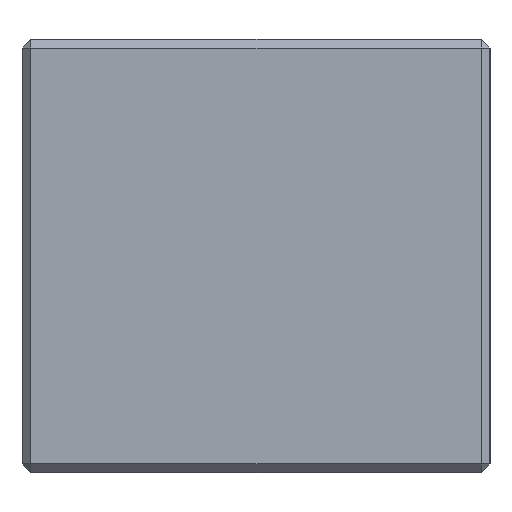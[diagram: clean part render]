
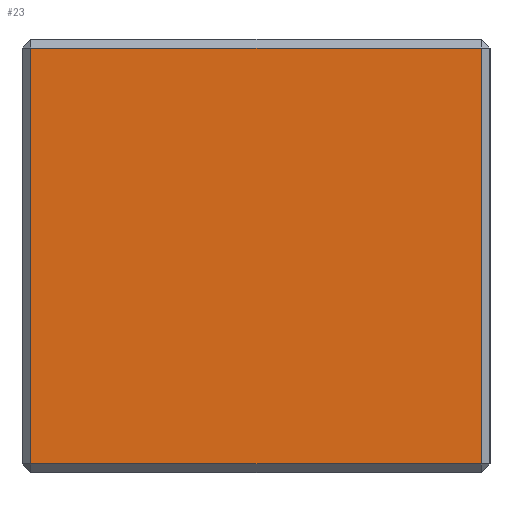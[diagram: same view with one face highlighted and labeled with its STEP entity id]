
A CAD part, left-side view. The second image highlights one B-rep face of the part: STEP entity #23.
In plain terms, the highlighted planar face has unit normal (-1, 0, 0).
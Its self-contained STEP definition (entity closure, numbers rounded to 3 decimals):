
#18 = EDGE_LOOP ( 'NONE', ( #471, #426, #443, #441 ) ) ;
#23 = ADVANCED_FACE ( 'NONE', ( #830 ), #829, .F. ) ;
#409 = VERTEX_POINT ( 'NONE', #1484 ) ;
#412 = VERTEX_POINT ( 'NONE', #1479 ) ;
#426 = ORIENTED_EDGE ( 'NONE', *, *, #444, .T. ) ;
#427 = EDGE_CURVE ( 'NONE', #412, #409, #1529, .T. ) ;
#439 = EDGE_CURVE ( 'NONE', #449, #445, #1562, .T. ) ;
#440 = EDGE_CURVE ( 'NONE', #445, #412, #1558, .T. ) ;
#441 = ORIENTED_EDGE ( 'NONE', *, *, #440, .T. ) ;
#443 = ORIENTED_EDGE ( 'NONE', *, *, #439, .T. ) ;
#444 = EDGE_CURVE ( 'NONE', #409, #449, #1554, .T. ) ;
#445 = VERTEX_POINT ( 'NONE', #1550 ) ;
#449 = VERTEX_POINT ( 'NONE', #1549 ) ;
#471 = ORIENTED_EDGE ( 'NONE', *, *, #427, .T. ) ;
#825 = DIRECTION ( 'NONE',  ( 0., 0., -1. ) ) ;
#826 = DIRECTION ( 'NONE',  ( 1., 0., 0. ) ) ;
#827 = CARTESIAN_POINT ( 'NONE',  ( -43., 31., 25. ) ) ;
#828 = AXIS2_PLACEMENT_3D ( 'NONE', #827, #826, #825 ) ;
#829 = PLANE ( 'NONE',  #828 ) ;
#830 = FACE_OUTER_BOUND ( 'NONE', #18, .T. ) ;
#1479 = CARTESIAN_POINT ( 'NONE',  ( -43., 30., -24. ) ) ;
#1484 = CARTESIAN_POINT ( 'NONE',  ( -43., -22., -24. ) ) ;
#1526 = DIRECTION ( 'NONE',  ( 0., -1., 0. ) ) ;
#1527 = VECTOR ( 'NONE', #1526, 1000. ) ;
#1528 = CARTESIAN_POINT ( 'NONE',  ( -43., 31., -24. ) ) ;
#1529 = LINE ( 'NONE', #1528, #1527 ) ;
#1549 = CARTESIAN_POINT ( 'NONE',  ( -43., -22., 24. ) ) ;
#1550 = CARTESIAN_POINT ( 'NONE',  ( -43., 30., 24. ) ) ;
#1551 = DIRECTION ( 'NONE',  ( 0., 0., 1. ) ) ;
#1552 = VECTOR ( 'NONE', #1551, 1000. ) ;
#1553 = CARTESIAN_POINT ( 'NONE',  ( -43., -22., 25. ) ) ;
#1554 = LINE ( 'NONE', #1553, #1552 ) ;
#1555 = DIRECTION ( 'NONE',  ( 0., 0., -1. ) ) ;
#1556 = VECTOR ( 'NONE', #1555, 1000. ) ;
#1557 = CARTESIAN_POINT ( 'NONE',  ( -43., 30., 25. ) ) ;
#1558 = LINE ( 'NONE', #1557, #1556 ) ;
#1559 = DIRECTION ( 'NONE',  ( 0., 1., 0. ) ) ;
#1560 = VECTOR ( 'NONE', #1559, 1000. ) ;
#1561 = CARTESIAN_POINT ( 'NONE',  ( -43., 31., 24. ) ) ;
#1562 = LINE ( 'NONE', #1561, #1560 ) ;
